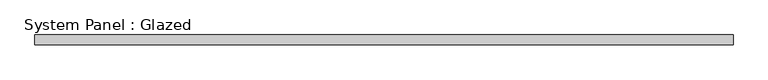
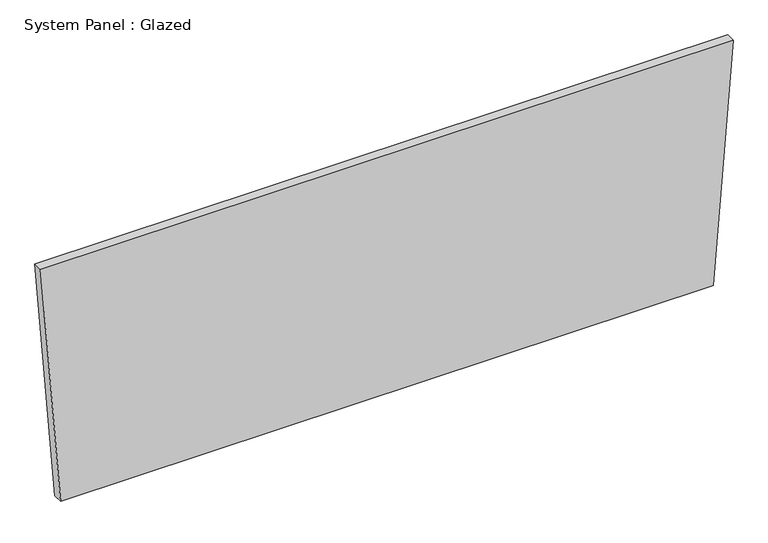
"""IFC4 building model written with IfcOpenShell, lengths in millimetres: plate geometry, System Panel : Glazed."""

from ifc_helpers import new_model, si_unit, frame, origin, place, context, project, spatial, polyline, outline, extrude, source, transform, mapped, element, save


def system_panel_glazed_360c3214(model_context):
    return source(origin(), model_context, "Body", "SweptSolid", [
        extrude(outline(polyline([(0.0, -857.7935559), (0.0002066, 857.7935723), (663.6727671, 910.6043325), (663.6727671, -910.6043325), (0.0, -857.7935559)])), frame((0.0, 19.05, 0.0), z_axis=(0.0, 1.0, 0.0), x_axis=(0.0, 0.0, 1.0)), (0.0, 0.0, 1.0), 25.4),
    ])


if __name__ == "__main__":
    model = new_model("IFC4")
    model_context = context("Model", 3, world=origin())
    ifc_project = project(units=[si_unit("LENGTHUNIT", "METRE", prefix="MILLI")], contexts=[model_context])
    site = spatial("IfcSite", under=ifc_project)
    building = spatial("IfcBuilding", under=site)
    placement = place(None, origin())
    system_panel_glazed_shape = system_panel_glazed_360c3214(model_context)
    element("IfcPlate", 1, ObjectType="System Panel : Glazed", at=placement, inside=building, context=model_context, shape_type="MappedRepresentation", body=[
        mapped(system_panel_glazed_shape, transform((0.0, 0.0, 0.0), x_axis=(1.0, 0.0, 0.0), y_axis=(0.0, 1.0, 0.0), z_axis=(0.0, 0.0, 1.0))),
    ])
    save(model, "model.ifc")
